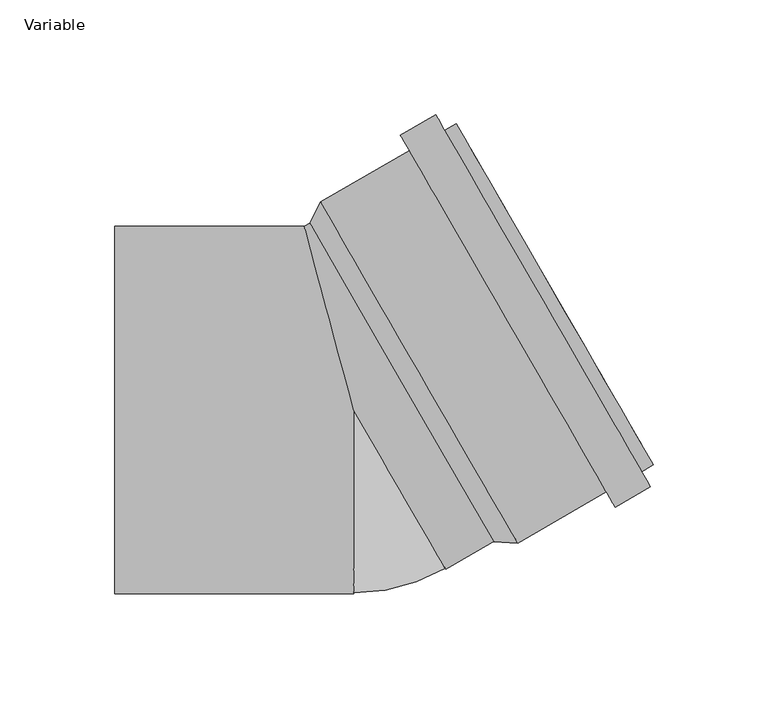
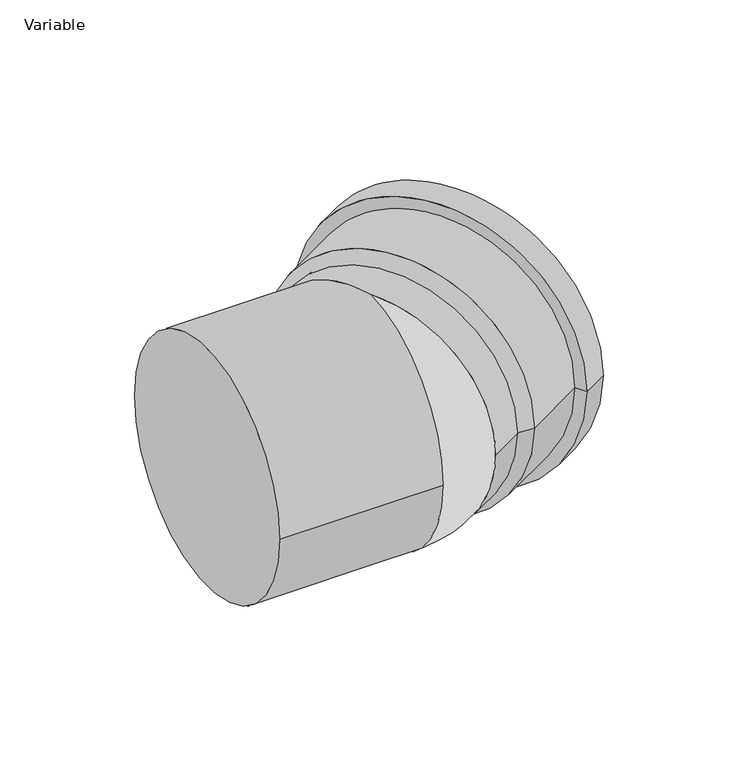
"""IFC4 building model written with IfcOpenShell, lengths in millimetres: pipe fitting geometry, AliaxisFR_Friaphon_ElbowMF_FR : Variable."""

from ifc_helpers import new_model, si_unit, point, frame, origin, place, context, project, spatial, polyline, circle_curve, ellipse_curve, trimmed, source, transform, mapped, element, save
from ifc_brep_helpers import plane_surface, cylinder_surface, revolved_surface, advanced_brep


def variable_e45ad3a7(model_context):
    return source(origin(), model_context, "Body", "AdvancedBrep", [
        advanced_brep(
        [(130.3685658, -23.8049796, 0.0), (44.5685658, 124.8049796, 0.0), (47.4685658, 119.7820323, 0.0), (127.4685658, -18.7820323, 0.0), (113.8669688, -42.2233753, 0.0), (20.3669688, 119.7233753, 0.0), (35.6956184, 128.5733753, 0.0), (129.1956184, -33.3733753, 0.0), (110.0169688, -35.5549796, 0.0), (24.2169688, 113.0549796, 0.0), (71.3922358, -57.8549796, 0.0), (-14.4077642, 90.7549796, 0.0), (-19.0421852, 81.3820323, 0.0), (60.9578148, -57.1820323, 0.0), (125.3456184, -26.7049796, 0.0), (39.5456184, 121.9049796, 0.0)],
        [
            (0, 1, circle_curve(frame((87.4685658, 50.5, 0.0), z_axis=(0.866025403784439, 0.4999999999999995, 0.0), x_axis=(-0.4999999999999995, 0.866025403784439, 0.0)), 85.8)),
            (1, 2),
            (2, 3, circle_curve(frame((87.4685658, 50.5, 0.0), z_axis=(-0.866025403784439, -0.4999999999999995, 0.0), x_axis=(-0.4999999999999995, 0.866025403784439, 0.0)), 80.0)),
            (3, 0),
            (1, 0, circle_curve(frame((87.4685658, 50.5, 0.0), z_axis=(0.866025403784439, 0.4999999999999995, 0.0), x_axis=(-0.4999999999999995, 0.866025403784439, 0.0)), 85.8)),
            (3, 2, circle_curve(frame((87.4685658, 50.5, 0.0), z_axis=(-0.866025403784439, -0.4999999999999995, 0.0), x_axis=(-0.4999999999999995, 0.866025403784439, 0.0)), 80.0)),
            (4, 5, circle_curve(frame((67.1169688, 38.75, 0.0), z_axis=(0.866025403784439, 0.4999999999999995, 0.0), x_axis=(-0.4999999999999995, 0.866025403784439, 0.0)), 93.5)),
            (5, 6),
            (6, 7, circle_curve(frame((82.4456184, 47.6, 0.0), z_axis=(-0.866025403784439, -0.4999999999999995, 0.0), x_axis=(-0.4999999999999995, 0.866025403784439, 0.0)), 93.5)),
            (7, 4),
            (5, 4, circle_curve(frame((67.1169688, 38.75, 0.0), z_axis=(0.866025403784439, 0.4999999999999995, 0.0), x_axis=(-0.4999999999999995, 0.866025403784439, 0.0)), 93.5)),
            (7, 6, circle_curve(frame((82.4456184, 47.6, 0.0), z_axis=(-0.866025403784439, -0.4999999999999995, 0.0), x_axis=(-0.4999999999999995, 0.866025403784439, 0.0)), 93.5)),
            (8, 9, circle_curve(frame((67.1169688, 38.75, 0.0), z_axis=(0.866025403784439, 0.4999999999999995, 0.0), x_axis=(-0.4999999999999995, 0.866025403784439, 0.0)), 85.8)),
            (9, 5),
            (4, 8),
            (9, 8, circle_curve(frame((67.1169688, 38.75, 0.0), z_axis=(0.866025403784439, 0.4999999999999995, 0.0), x_axis=(-0.4999999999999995, 0.866025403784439, 0.0)), 85.8)),
            (10, 11, circle_curve(frame((28.4922358, 16.45, 0.0), z_axis=(0.866025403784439, 0.4999999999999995, 0.0), x_axis=(-0.4999999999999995, 0.866025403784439, 0.0)), 85.8)),
            (11, 9),
            (8, 10),
            (11, 10, circle_curve(frame((28.4922358, 16.45, 0.0), z_axis=(0.866025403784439, 0.4999999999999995, 0.0), x_axis=(-0.4999999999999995, 0.866025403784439, 0.0)), 85.8)),
            (2, 12),
            (12, 13, circle_curve(frame((20.9578148, 12.1, 0.0), z_axis=(-0.866025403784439, -0.4999999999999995, 0.0), x_axis=(-0.4999999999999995, 0.866025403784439, 0.0)), 80.0)),
            (13, 3),
            (13, 12, circle_curve(frame((20.9578148, 12.1, 0.0), z_axis=(-0.866025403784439, -0.4999999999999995, 0.0), x_axis=(-0.4999999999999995, 0.866025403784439, 0.0)), 80.0)),
            (12, 11),
            (10, 13),
            (14, 15, circle_curve(frame((82.4456184, 47.6, 0.0), z_axis=(0.866025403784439, 0.4999999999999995, 0.0), x_axis=(-0.4999999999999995, 0.866025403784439, 0.0)), 85.8)),
            (15, 1),
            (0, 14),
            (15, 14, circle_curve(frame((82.4456184, 47.6, 0.0), z_axis=(0.866025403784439, 0.4999999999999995, 0.0), x_axis=(-0.4999999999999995, 0.866025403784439, 0.0)), 85.8)),
            (6, 15),
            (14, 7),
        ],
        [
            plane_surface(frame((87.4685658, 50.5, 0.0), z_axis=(0.866025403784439, 0.4999999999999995, 0.0), x_axis=(-0.4999999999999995, 0.866025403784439, 0.0))),
            cylinder_surface(frame((20.9578148, 12.1, 0.0), z_axis=(-0.866025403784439, -0.4999999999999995, 0.0), x_axis=(-0.4999999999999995, 0.866025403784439, 0.0)), 93.5),
            plane_surface(frame((67.1169688, 38.75, 0.0), z_axis=(-0.866025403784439, -0.4999999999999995, 0.0), x_axis=(-0.4999999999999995, 0.866025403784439, 0.0))),
            cylinder_surface(frame((20.9578148, 12.1, 0.0), z_axis=(-0.866025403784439, -0.4999999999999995, 0.0), x_axis=(-0.4999999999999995, 0.866025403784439, 0.0)), 85.8),
            revolved_surface(polyline([(-19.042185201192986, 81.38203230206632, 0.0), (47.46856580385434, 119.78203229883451, 0.0)]), (20.9578148, 12.1, 0.0), (-0.866025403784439, -0.4999999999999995, 0.0)),
            revolved_surface(polyline([(-14.4077642, 90.7549796, 0.0), (-19.0421852, 81.3820323, 0.0)]), (20.9578148, 12.1, 0.0), (-0.866025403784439, -0.4999999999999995, 0.0)),
            plane_surface(frame((82.4456184, 47.6, 0.0), z_axis=(0.866025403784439, 0.4999999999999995, 0.0), x_axis=(-0.4999999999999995, 0.866025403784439, 0.0))),
        ],
        [
            (0, [[1, 2, 3, 4]]),
            (0, [[5, -4, 6, -2]]),
            (1, [[7, 8, 9, 10]]),
            (1, [[11, -10, 12, -8]]),
            (2, [[13, 14, -7, 15]]),
            (2, [[16, -15, -11, -14]]),
            (3, [[17, 18, -13, 19]]),
            (3, [[20, -19, -16, -18]]),
            (4, [[-3, 21, 22, 23]]),
            (4, [[-6, -23, 24, -21]]),
            (5, [[-22, 25, -17, 26]]),
            (5, [[-24, -26, -20, -25]]),
            (3, [[27, 28, -1, 29]]),
            (3, [[30, -29, -5, -28]]),
            (6, [[-9, 31, -27, 32]]),
            (6, [[-12, -32, -30, -31]]),
        ],
    ),
        advanced_brep(
        [(-14.0192379, 84.2820323, 0.0), (65.9807621, -54.2820323, 0.0), (40.0, -69.2820323, 0.0), (-21.4359354, 80.0, 0.0), (0.0, 0.0, 80.0), (0.0, 0.0, -80.0), (-104.0, -80.0, 0.0), (-104.0, 80.0, 0.0), (0.0, -80.0, 0.0)],
        [
            (0, 1, circle_curve(frame((25.9807621, 15.0, 0.0), z_axis=(0.8660254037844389, 0.4999999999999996, 0.0), x_axis=(-0.4999999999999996, 0.8660254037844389, 0.0)), 80.0)),
            (1, 0, circle_curve(frame((25.9807621, 15.0, 0.0), z_axis=(0.8660254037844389, 0.4999999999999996, 0.0), x_axis=(-0.4999999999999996, 0.8660254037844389, 0.0)), 80.0)),
            (2, 1),
            (0, 3),
            (3, 4, ellipse_curve(frame((0.0, 0.0, 0.0), z_axis=(0.9659258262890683, 0.2588190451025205, 0.0), x_axis=(0.25881904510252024, -0.9659258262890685, 0.0)), 82.8220944, 80.0)),
            (4, 2, circle_curve(frame((0.0, 0.0, 0.0), z_axis=(0.8660254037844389, 0.4999999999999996, 0.0), x_axis=(-0.4999999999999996, 0.8660254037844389, 0.0)), 80.0)),
            (2, 5, circle_curve(frame((0.0, 0.0, 0.0), z_axis=(0.8660254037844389, 0.4999999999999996, 0.0), x_axis=(-0.4999999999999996, 0.8660254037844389, 0.0)), 80.0)),
            (5, 3, ellipse_curve(frame((0.0, 0.0, 0.0), z_axis=(0.9659258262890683, 0.2588190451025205, 0.0), x_axis=(0.25881904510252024, -0.9659258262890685, 0.0)), 82.8220944, 80.0)),
            (6, 7, circle_curve(frame((-104.0, 0.0, 0.0), z_axis=(-1.0, 0.0, 0.0), x_axis=(0.0, 1.0, 0.0)), 80.0)),
            (7, 6, circle_curve(frame((-104.0, 0.0, 0.0), z_axis=(-1.0, 0.0, 0.0), x_axis=(0.0, 1.0, 0.0)), 80.0)),
            (6, 8),
            (8, 4, circle_curve(frame((0.0, 0.0, 0.0), z_axis=(-1.0, 0.0, 0.0), x_axis=(0.0, 1.0, 0.0)), 80.0)),
            (3, 7),
            (5, 8, circle_curve(frame((0.0, 0.0, 0.0), z_axis=(-1.0, 0.0, 0.0), x_axis=(0.0, 1.0, 0.0)), 80.0)),
        ],
        [
            plane_surface(frame((25.9807621, 15.0, 0.0), z_axis=(0.8660254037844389, 0.4999999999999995, 0.0), x_axis=(0.0, 0.0, 1.0))),
            cylinder_surface(frame((0.0, 0.0, 0.0), z_axis=(-0.8660254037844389, -0.4999999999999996, 0.0), x_axis=(-0.4999999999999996, 0.8660254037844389, 0.0)), 80.0),
            plane_surface(frame((-104.0, 0.0, 0.0), z_axis=(-1.0, 0.0, 0.0), x_axis=(0.0, 0.0, 1.0))),
            cylinder_surface(frame((-104.0, 0.0, 0.0), z_axis=(-1.0, 0.0, 0.0), x_axis=(0.0, 1.0, 0.0)), 80.0),
            revolved_surface(trimmed(ellipse_curve(frame((0.0, 0.0, 0.0), z_axis=(0.8660254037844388, 0.49999999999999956, 0.0), x_axis=(-0.49999999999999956, 0.8660254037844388, 0.0)), 80.0, 80.0), [point((0.0, 0.0, 80.0))], [point((0.0, 0.0, -80.0))], True, "CARTESIAN"), (0.0, 0.0, 80.0), (0.0, 0.0, -1.0)),
        ],
        [
            (0, [[1, 2]]),
            (1, [[3, -1, 4, 5, 6]]),
            (1, [[-2, -3, 7, 8, -4]]),
            (2, [[9, 10]]),
            (3, [[-9, 11, 12, -5, 13]]),
            (3, [[-10, -13, -8, 14, -11]]),
            (4, [[-12, -14, -7, -6]]),
        ],
    ),
    ])


if __name__ == "__main__":
    model = new_model("IFC4")
    model_context = context("Model", 3, world=origin())
    ifc_project = project(units=[si_unit("LENGTHUNIT", "METRE", prefix="MILLI")], contexts=[model_context])
    site = spatial("IfcSite", under=ifc_project)
    building = spatial("IfcBuilding", under=site)
    placement = place(None, origin())
    variable_shape = variable_e45ad3a7(model_context)
    element("IfcPipeFitting", 1, ObjectType="AliaxisFR_Friaphon_ElbowMF_FR : Variable", at=placement, inside=building, context=model_context, shape_type="MappedRepresentation", body=[
        mapped(variable_shape, transform((0.0, 0.0, 0.0), x_axis=(1.0, 0.0, 0.0), y_axis=(0.0, 1.0, 0.0), z_axis=(0.0, 0.0, 1.0))),
    ])
    save(model, "model.ifc")
